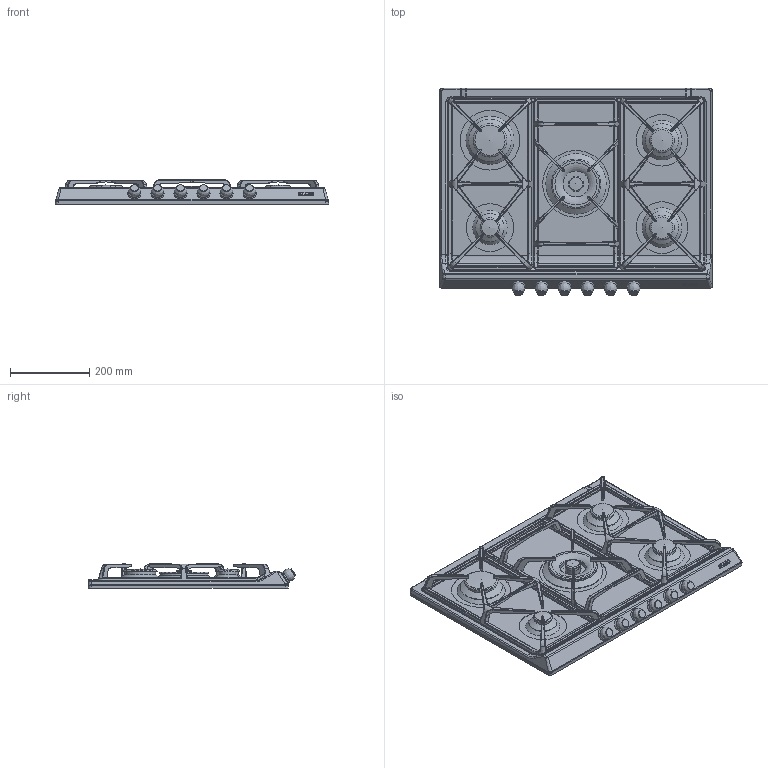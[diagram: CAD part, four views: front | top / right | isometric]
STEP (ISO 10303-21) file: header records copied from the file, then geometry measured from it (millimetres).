
FILE_DESCRIPTION(/* description */ (''),/* implementation_level */ '2;1');
FILE_NAME(/* name */ 'SR775AO.stp',/* time_stamp */ '2016-01-07T15:47:27+01:00',/* author */ (''),/* organization */ (''),/* preprocessor_version */ 'ST-DEVELOPER v11',/* originating_system */ 'SIEMENS PLM Software NX 7.5',/* authorisation */ '');
FILE_SCHEMA (('AUTOMOTIVE_DESIGN { 1 0 10303 214 1 1 1 1 }'));
Products named in the file (1): FAVE0389knim
Bounding box: 688 x 521.7 x 61 mm (x, y, z)
Volume: 7518570.1 mm3; surface area: 1211449.7 mm2
Topology: 37 solids, 39 shells, 2796 faces, 6597 edges, 3835 vertices
Faces by surface type: bspline 1064, cylinder 872, plane 737, torus 39, cone 38, extrusion 36, sphere 10
Full cylindrical faces by diameter (mm): 2.5 x6, 5 x6, 10 x6, 19.7 x6, 22.3 x1, 38 x1, 42 x1, 43 x1, 50 x1, 55 x2, 56 x2, 65.6 x1, 70.5 x1, 77.5 x1, 78.5 x1, 83 x2, 106 x1, 111 x1, 113.5 x1, 120 x1, 122.009 x1, 130 x2, 150 x1, 152 x1, 168 x1
Entity records: 97850 total; most frequent: CARTESIAN_POINT 41714, ORIENTED_EDGE 12856, DIRECTION 9772, EDGE_CURVE 6428, VERTEX_POINT 3812, AXIS2_PLACEMENT_3D 3703, EDGE_LOOP 2914, ADVANCED_FACE 2796
